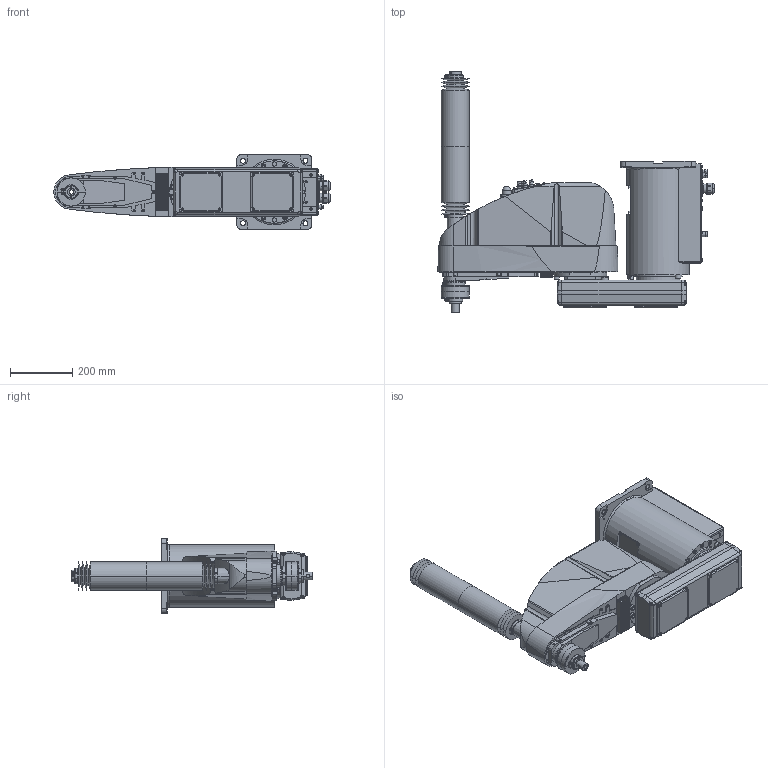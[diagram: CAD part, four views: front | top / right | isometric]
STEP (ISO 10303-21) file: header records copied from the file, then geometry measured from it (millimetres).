
FILE_DESCRIPTION( ( '' ), '1' );
FILE_NAME( '//expscmdclustefs.cadenas.external/client_exchange/iodir/jobs/output/wkb51512385_no0/STEP/G10_654CR_2_14b.stp', '2012-11-22T15:33:48', ( '' ), ( '' ), ' ', ' ', ' ' );
FILE_SCHEMA( ( 'automotive_design' ) );
Length unit declared in the file: millimetre
Products named in the file (8): 1; 2; 3; 4; 5; 6; 7; 8
Bounding box: 884.5 x 774 x 240 mm (x, y, z)
Volume: 40892276.5 mm3; surface area: 1701769.5 mm2
Topology: 8 solids, 10 shells, 2175 faces, 5324 edges, 3451 vertices
Faces by surface type: plane 1189, cylinder 702, cone 250, torus 33, sphere 1
Entity records: 127461 total; most frequent: CARTESIAN_POINT 13377, DIRECTION 11297, STYLED_ITEM 10950, PRESENTATION_STYLE_ASSIGNMENT 10950, COLOUR_RGB 10950, ORIENTED_EDGE 10632, EDGE_CURVE 5316, CURVE_STYLE 5316
